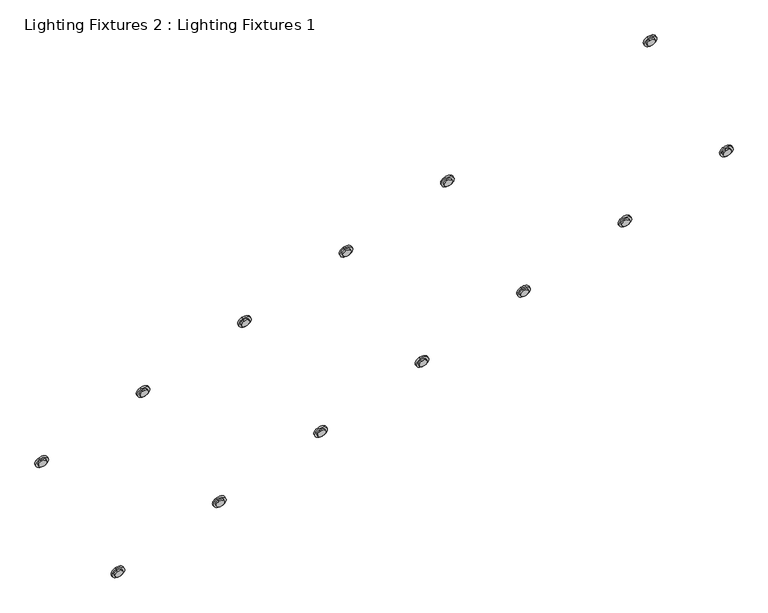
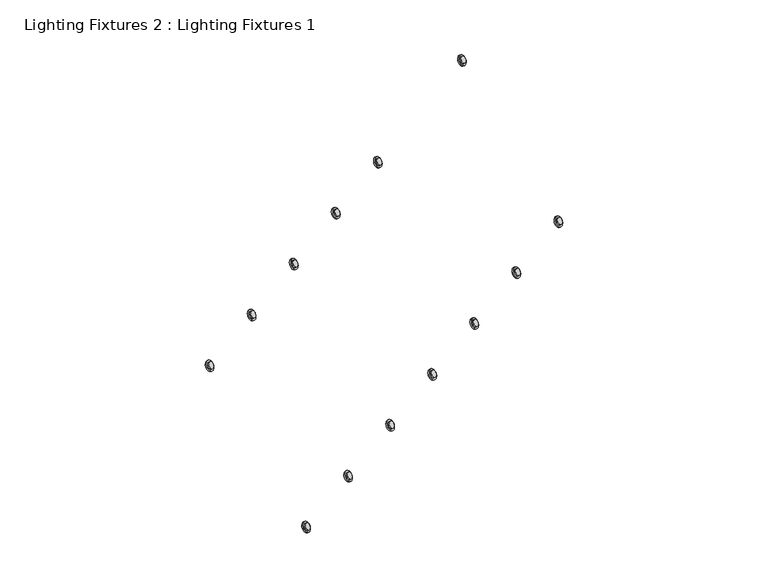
"""IFC4 building model written with IfcOpenShell, lengths in millimetres: light fixture geometry, Lighting Fixtures 2 : Lighting Fixtures 1."""

from ifc_helpers import new_model, si_unit, point, frame, frame_2d, origin, place, context, project, spatial, circle_curve, trimmed, segment, composite_curve, outline, extrude, source, transform, mapped, element, save


def lighting_fixtures_2_lighting_fixtures_1_9e1721ec(model_context):
    return source(origin(), model_context, "Body", "SweptSolid", [
        extrude(outline(composite_curve([segment(trimmed(circle_curve(frame_2d((0.0, -65.0)), 65.0), [point((1e-07, -130.0000001))], [point((0.0, 0.0))], False, "CARTESIAN"), True, "CONTINUOUS"), segment(trimmed(circle_curve(frame_2d((0.0, -65.0)), 65.0), [point((0.0, 0.0))], [point((1e-07, -130.0000001))], False, "CARTESIAN"), True, "CONTINUOUS")], self_intersect=False)), frame((-1226.8155059, 12770.6233894, 7747.2436217), z_axis=(0.47776471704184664, -0.6906048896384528, 0.542960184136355), x_axis=(-0.8223851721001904, -0.568931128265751, 0.0)), (0.0, 0.0, 1.0), 50.0),
        extrude(outline(composite_curve([segment(trimmed(circle_curve(frame_2d((0.0, -100.0000001)), 100.0), [point((1e-07, -200.0))], [point((0.0, 0.0))], False, "CARTESIAN"), True, "CONTINUOUS"), segment(trimmed(circle_curve(frame_2d((0.0, -100.0000001)), 100.0), [point((0.0, 0.0))], [point((1e-07, -200.0))], False, "CARTESIAN"), True, "CONTINUOUS")], self_intersect=False), holes=[composite_curve([segment(trimmed(circle_curve(frame_2d((0.0, -100.0000001)), 65.0), [point((0.0, -165.0))], [point((0.0, -35.0))], True, "CARTESIAN"), True, "CONTINUOUS"), segment(trimmed(circle_curve(frame_2d((0.0, -100.0000001)), 65.0), [point((0.0, -35.0))], [point((0.0, -165.0))], True, "CARTESIAN"), True, "CONTINUOUS")], self_intersect=False)]), frame((-1274.4249653, 12843.7781145, 7882.1837754), z_axis=(0.4777647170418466, -0.6906048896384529, 0.5429601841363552), x_axis=(0.8223851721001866, 0.5689311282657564, 0.0)), (0.0, 0.0, 1.0), 25.0),
        extrude(outline(composite_curve([segment(trimmed(circle_curve(frame_2d((-1e-07, -65.0)), 65.0), [point((0.0, -130.0))], [point((0.0, 0.0))], False, "CARTESIAN"), True, "CONTINUOUS"), segment(trimmed(circle_curve(frame_2d((-1e-07, -65.0)), 65.0), [point((0.0, 0.0))], [point((0.0, -130.0))], False, "CARTESIAN"), True, "CONTINUOUS")], self_intersect=False)), frame((-176.5318754, 11252.4472142, 4892.0649239), z_axis=(0.47776471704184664, -0.6906048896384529, 0.542960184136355), x_axis=(-0.8223851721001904, -0.5689311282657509, 0.0)), (0.0, 0.0, 1.0), 50.0),
        extrude(outline(composite_curve([segment(trimmed(circle_curve(frame_2d((0.0, -100.0000001)), 100.0), [point((0.0, -200.0))], [point((0.0, 0.0))], False, "CARTESIAN"), True, "CONTINUOUS"), segment(trimmed(circle_curve(frame_2d((0.0, -100.0000001)), 100.0), [point((0.0, 0.0))], [point((0.0, -200.0))], False, "CARTESIAN"), True, "CONTINUOUS")], self_intersect=False), holes=[composite_curve([segment(trimmed(circle_curve(frame_2d((0.0, -100.0000001)), 65.0), [point((0.0, -165.0))], [point((0.0, -35.0))], True, "CARTESIAN"), True, "CONTINUOUS"), segment(trimmed(circle_curve(frame_2d((0.0, -100.0000001)), 65.0), [point((0.0, -35.0))], [point((0.0, -165.0))], True, "CARTESIAN"), True, "CONTINUOUS")], self_intersect=False)]), frame((-224.1413347, 11325.6019393, 5027.0050776), z_axis=(0.4777647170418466, -0.6906048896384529, 0.5429601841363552), x_axis=(0.8223851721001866, 0.5689311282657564, 0.0)), (0.0, 0.0, 1.0), 25.0),
        extrude(outline(composite_curve([segment(trimmed(circle_curve(frame_2d((0.0, -65.0)), 65.0), [point((1e-07, -130.0000001))], [point((0.0, 0.0))], False, "CARTESIAN"), True, "CONTINUOUS"), segment(trimmed(circle_curve(frame_2d((0.0, -65.0)), 65.0), [point((0.0, 0.0))], [point((1e-07, -130.0000001))], False, "CARTESIAN"), True, "CONTINUOUS")], self_intersect=False)), frame((-1574.5866679, 10285.2642961, 4892.0649239), z_axis=(0.47776471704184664, -0.6906048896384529, 0.542960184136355), x_axis=(-0.8223851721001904, -0.5689311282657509, 0.0)), (0.0, 0.0, 1.0), 50.0),
        extrude(outline(composite_curve([segment(trimmed(circle_curve(frame_2d((1e-07, -100.0)), 100.0), [point((1e-07, -200.0))], [point((0.0, 0.0))], False, "CARTESIAN"), True, "CONTINUOUS"), segment(trimmed(circle_curve(frame_2d((1e-07, -100.0)), 100.0), [point((0.0, 0.0))], [point((1e-07, -200.0))], False, "CARTESIAN"), True, "CONTINUOUS")], self_intersect=False), holes=[composite_curve([segment(trimmed(circle_curve(frame_2d((1e-07, -100.0)), 65.0), [point((0.0, -165.0))], [point((1e-07, -35.0))], True, "CARTESIAN"), True, "CONTINUOUS"), segment(trimmed(circle_curve(frame_2d((1e-07, -100.0)), 65.0), [point((1e-07, -35.0))], [point((0.0, -165.0))], True, "CARTESIAN"), True, "CONTINUOUS")], self_intersect=False)]), frame((-1622.1961273, 10358.4190212, 5027.0050776), z_axis=(0.4777647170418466, -0.6906048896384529, 0.5429601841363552), x_axis=(0.8223851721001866, 0.5689311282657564, 0.0)), (0.0, 0.0, 1.0), 25.0),
        extrude(outline(composite_curve([segment(trimmed(circle_curve(frame_2d((-1e-07, -65.0)), 65.0), [point((0.0, -130.0))], [point((0.0, 0.0))], False, "CARTESIAN"), True, "CONTINUOUS"), segment(trimmed(circle_curve(frame_2d((-1e-07, -65.0)), 65.0), [point((0.0, 0.0))], [point((0.0, -130.0))], False, "CARTESIAN"), True, "CONTINUOUS")], self_intersect=False)), frame((-4022.9250911, 10836.2575533, 7747.2436217), z_axis=(0.47776471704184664, -0.6906048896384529, 0.542960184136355), x_axis=(-0.8223851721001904, -0.5689311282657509, 0.0)), (0.0, 0.0, 1.0), 50.0),
        extrude(outline(composite_curve([segment(trimmed(circle_curve(frame_2d((0.0, -100.0000001)), 100.0), [point((0.0, -200.0))], [point((0.0, 0.0))], False, "CARTESIAN"), True, "CONTINUOUS"), segment(trimmed(circle_curve(frame_2d((0.0, -100.0000001)), 100.0), [point((0.0, 0.0))], [point((0.0, -200.0))], False, "CARTESIAN"), True, "CONTINUOUS")], self_intersect=False), holes=[composite_curve([segment(trimmed(circle_curve(frame_2d((0.0, -100.0000001)), 65.0), [point((0.0, -165.0))], [point((0.0, -35.0))], True, "CARTESIAN"), True, "CONTINUOUS"), segment(trimmed(circle_curve(frame_2d((0.0, -100.0000001)), 65.0), [point((0.0, -35.0))], [point((0.0, -165.0))], True, "CARTESIAN"), True, "CONTINUOUS")], self_intersect=False)]), frame((-4070.5345504, 10909.4122784, 7882.1837754), z_axis=(0.4777647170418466, -0.6906048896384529, 0.5429601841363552), x_axis=(0.8223851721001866, 0.5689311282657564, 0.0)), (0.0, 0.0, 1.0), 25.0),
        extrude(outline(composite_curve([segment(trimmed(circle_curve(frame_2d((0.0, -65.0)), 65.0), [point((0.0, -130.0))], [point((0.0, 0.0))], False, "CARTESIAN"), True, "CONTINUOUS"), segment(trimmed(circle_curve(frame_2d((0.0, -65.0)), 65.0), [point((0.0, 0.0))], [point((0.0, -130.0))], False, "CARTESIAN"), True, "CONTINUOUS")], self_intersect=False)), frame((-2972.6414605, 9318.0813781, 4892.0649239), z_axis=(0.47776471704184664, -0.6906048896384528, 0.542960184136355), x_axis=(-0.8223851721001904, -0.568931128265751, 0.0)), (0.0, 0.0, 1.0), 50.0),
        extrude(outline(composite_curve([segment(trimmed(circle_curve(frame_2d((0.0, -100.0000001)), 100.0), [point((0.0, -200.0))], [point((0.0, 0.0))], False, "CARTESIAN"), True, "CONTINUOUS"), segment(trimmed(circle_curve(frame_2d((0.0, -100.0000001)), 100.0), [point((0.0, 0.0))], [point((0.0, -200.0))], False, "CARTESIAN"), True, "CONTINUOUS")], self_intersect=False), holes=[composite_curve([segment(trimmed(circle_curve(frame_2d((0.0, -100.0000001)), 65.0), [point((-1e-07, -165.0))], [point((-1e-07, -35.0))], True, "CARTESIAN"), True, "CONTINUOUS"), segment(trimmed(circle_curve(frame_2d((0.0, -100.0000001)), 65.0), [point((-1e-07, -35.0))], [point((-1e-07, -165.0))], True, "CARTESIAN"), True, "CONTINUOUS")], self_intersect=False)]), frame((-3020.2509198, 9391.2361032, 5027.0050776), z_axis=(0.47776471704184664, -0.6906048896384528, 0.5429601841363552), x_axis=(0.8223851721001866, 0.5689311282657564, 0.0)), (0.0, 0.0, 1.0), 25.0),
        extrude(outline(composite_curve([segment(trimmed(circle_curve(frame_2d((0.0, -65.0)), 65.0), [point((1e-07, -130.0000001))], [point((0.0, 0.0))], False, "CARTESIAN"), True, "CONTINUOUS"), segment(trimmed(circle_curve(frame_2d((0.0, -65.0)), 65.0), [point((0.0, 0.0))], [point((1e-07, -130.0000001))], False, "CARTESIAN"), True, "CONTINUOUS")], self_intersect=False)), frame((-5420.9798836, 9869.0746352, 7747.2436217), z_axis=(0.47776471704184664, -0.6906048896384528, 0.542960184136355), x_axis=(-0.8223851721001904, -0.568931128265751, 0.0)), (0.0, 0.0, 1.0), 50.0),
        extrude(outline(composite_curve([segment(trimmed(circle_curve(frame_2d((1e-07, -100.0)), 100.0), [point((1e-07, -200.0))], [point((0.0, 0.0))], False, "CARTESIAN"), True, "CONTINUOUS"), segment(trimmed(circle_curve(frame_2d((1e-07, -100.0)), 100.0), [point((0.0, 0.0))], [point((1e-07, -200.0))], False, "CARTESIAN"), True, "CONTINUOUS")], self_intersect=False), holes=[composite_curve([segment(trimmed(circle_curve(frame_2d((1e-07, -100.0)), 65.0), [point((0.0, -165.0))], [point((1e-07, -35.0))], True, "CARTESIAN"), True, "CONTINUOUS"), segment(trimmed(circle_curve(frame_2d((1e-07, -100.0)), 65.0), [point((1e-07, -35.0))], [point((0.0, -165.0))], True, "CARTESIAN"), True, "CONTINUOUS")], self_intersect=False)]), frame((-5468.589343, 9942.2293603, 7882.1837754), z_axis=(0.47776471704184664, -0.6906048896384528, 0.5429601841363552), x_axis=(0.8223851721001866, 0.5689311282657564, 0.0)), (0.0, 0.0, 1.0), 25.0),
        extrude(outline(composite_curve([segment(trimmed(circle_curve(frame_2d((0.0, -65.0)), 65.0), [point((0.0, -130.0))], [point((0.0, 0.0))], False, "CARTESIAN"), True, "CONTINUOUS"), segment(trimmed(circle_curve(frame_2d((0.0, -65.0)), 65.0), [point((0.0, 0.0))], [point((0.0, -130.0))], False, "CARTESIAN"), True, "CONTINUOUS")], self_intersect=False)), frame((-4370.6962531, 8350.89846, 4892.0649239), z_axis=(0.47776471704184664, -0.6906048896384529, 0.542960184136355), x_axis=(-0.8223851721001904, -0.5689311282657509, 0.0)), (0.0, 0.0, 1.0), 50.0),
        extrude(outline(composite_curve([segment(trimmed(circle_curve(frame_2d((0.0, -100.0)), 100.0), [point((0.0, -200.0))], [point((0.0, 0.0))], False, "CARTESIAN"), True, "CONTINUOUS"), segment(trimmed(circle_curve(frame_2d((0.0, -100.0)), 100.0), [point((0.0, 0.0))], [point((0.0, -200.0))], False, "CARTESIAN"), True, "CONTINUOUS")], self_intersect=False), holes=[composite_curve([segment(trimmed(circle_curve(frame_2d((0.0, -100.0)), 65.0), [point((0.0, -165.0))], [point((1e-07, -35.0))], True, "CARTESIAN"), True, "CONTINUOUS"), segment(trimmed(circle_curve(frame_2d((0.0, -100.0)), 65.0), [point((1e-07, -35.0))], [point((0.0, -165.0))], True, "CARTESIAN"), True, "CONTINUOUS")], self_intersect=False)]), frame((-4418.3057124, 8424.0531851, 5027.0050776), z_axis=(0.47776471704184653, -0.6906048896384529, 0.542960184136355), x_axis=(0.8223851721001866, 0.5689311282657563, 0.0)), (0.0, 0.0, 1.0), 25.0),
        extrude(outline(composite_curve([segment(trimmed(circle_curve(frame_2d((0.0, -65.0)), 65.0), [point((0.0, -130.0))], [point((0.0, 0.0))], False, "CARTESIAN"), True, "CONTINUOUS"), segment(trimmed(circle_curve(frame_2d((0.0, -65.0)), 65.0), [point((0.0, 0.0))], [point((0.0, -130.0))], False, "CARTESIAN"), True, "CONTINUOUS")], self_intersect=False)), frame((-6819.0346762, 8901.8917172, 7747.2436217), z_axis=(0.47776471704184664, -0.6906048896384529, 0.542960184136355), x_axis=(-0.8223851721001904, -0.5689311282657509, 0.0)), (0.0, 0.0, 1.0), 50.0),
        extrude(outline(composite_curve([segment(trimmed(circle_curve(frame_2d((0.0, -100.0000001)), 100.0), [point((0.0, -200.0))], [point((0.0, 0.0))], False, "CARTESIAN"), True, "CONTINUOUS"), segment(trimmed(circle_curve(frame_2d((0.0, -100.0000001)), 100.0), [point((0.0, 0.0))], [point((0.0, -200.0))], False, "CARTESIAN"), True, "CONTINUOUS")], self_intersect=False), holes=[composite_curve([segment(trimmed(circle_curve(frame_2d((0.0, -100.0000001)), 65.0), [point((-1e-07, -165.0))], [point((-1e-07, -35.0))], True, "CARTESIAN"), True, "CONTINUOUS"), segment(trimmed(circle_curve(frame_2d((0.0, -100.0000001)), 65.0), [point((-1e-07, -35.0))], [point((-1e-07, -165.0))], True, "CARTESIAN"), True, "CONTINUOUS")], self_intersect=False)]), frame((-6866.6441355, 8975.0464423, 7882.1837754), z_axis=(0.47776471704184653, -0.6906048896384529, 0.542960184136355), x_axis=(0.8223851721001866, 0.5689311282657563, 0.0)), (0.0, 0.0, 1.0), 25.0),
        extrude(outline(composite_curve([segment(trimmed(circle_curve(frame_2d((-1e-07, -65.0)), 65.0), [point((0.0, -130.0))], [point((0.0, 0.0))], False, "CARTESIAN"), True, "CONTINUOUS"), segment(trimmed(circle_curve(frame_2d((-1e-07, -65.0)), 65.0), [point((0.0, 0.0))], [point((0.0, -130.0))], False, "CARTESIAN"), True, "CONTINUOUS")], self_intersect=False)), frame((-5768.7510457, 7383.715542, 4892.0649239), z_axis=(0.47776471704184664, -0.6906048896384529, 0.542960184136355), x_axis=(-0.8223851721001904, -0.5689311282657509, 0.0)), (0.0, 0.0, 1.0), 50.0),
        extrude(outline(composite_curve([segment(trimmed(circle_curve(frame_2d((0.0, -100.0000001)), 100.0), [point((1e-07, -200.0))], [point((0.0, 0.0))], False, "CARTESIAN"), True, "CONTINUOUS"), segment(trimmed(circle_curve(frame_2d((0.0, -100.0000001)), 100.0), [point((0.0, 0.0))], [point((1e-07, -200.0))], False, "CARTESIAN"), True, "CONTINUOUS")], self_intersect=False), holes=[composite_curve([segment(trimmed(circle_curve(frame_2d((0.0, -100.0000001)), 65.0), [point((0.0, -165.0))], [point((0.0, -35.0))], True, "CARTESIAN"), True, "CONTINUOUS"), segment(trimmed(circle_curve(frame_2d((0.0, -100.0000001)), 65.0), [point((0.0, -35.0))], [point((0.0, -165.0))], True, "CARTESIAN"), True, "CONTINUOUS")], self_intersect=False)]), frame((-5816.360505, 7456.8702671, 5027.0050776), z_axis=(0.47776471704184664, -0.6906048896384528, 0.5429601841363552), x_axis=(0.8223851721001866, 0.5689311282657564, 0.0)), (0.0, 0.0, 1.0), 25.0),
        extrude(outline(composite_curve([segment(trimmed(circle_curve(frame_2d((-1e-07, -65.0)), 65.0), [point((0.0, -130.0))], [point((0.0, 0.0))], False, "CARTESIAN"), True, "CONTINUOUS"), segment(trimmed(circle_curve(frame_2d((-1e-07, -65.0)), 65.0), [point((0.0, 0.0))], [point((0.0, -130.0))], False, "CARTESIAN"), True, "CONTINUOUS")], self_intersect=False)), frame((-8217.0894688, 7934.7087991, 7747.2436217), z_axis=(0.47776471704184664, -0.6906048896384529, 0.542960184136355), x_axis=(-0.8223851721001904, -0.5689311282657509, 0.0)), (0.0, 0.0, 1.0), 50.0),
        extrude(outline(composite_curve([segment(trimmed(circle_curve(frame_2d((0.0, -100.0)), 100.0), [point((0.0, -200.0))], [point((0.0, 0.0))], False, "CARTESIAN"), True, "CONTINUOUS"), segment(trimmed(circle_curve(frame_2d((0.0, -100.0)), 100.0), [point((0.0, 0.0))], [point((0.0, -200.0))], False, "CARTESIAN"), True, "CONTINUOUS")], self_intersect=False), holes=[composite_curve([segment(trimmed(circle_curve(frame_2d((0.0, -100.0)), 65.0), [point((0.0, -165.0))], [point((1e-07, -35.0))], True, "CARTESIAN"), True, "CONTINUOUS"), segment(trimmed(circle_curve(frame_2d((0.0, -100.0)), 65.0), [point((1e-07, -35.0))], [point((0.0, -165.0))], True, "CARTESIAN"), True, "CONTINUOUS")], self_intersect=False)]), frame((-8264.6989281, 8007.8635242, 7882.1837754), z_axis=(0.47776471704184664, -0.6906048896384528, 0.5429601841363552), x_axis=(0.8223851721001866, 0.5689311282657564, 0.0)), (0.0, 0.0, 1.0), 25.0),
        extrude(outline(composite_curve([segment(trimmed(circle_curve(frame_2d((0.0, -65.0)), 65.0), [point((1e-07, -130.0000001))], [point((0.0, 0.0))], False, "CARTESIAN"), True, "CONTINUOUS"), segment(trimmed(circle_curve(frame_2d((0.0, -65.0)), 65.0), [point((0.0, 0.0))], [point((1e-07, -130.0000001))], False, "CARTESIAN"), True, "CONTINUOUS")], self_intersect=False)), frame((-7166.8058382, 6416.5326239, 4892.0649239), z_axis=(0.4777647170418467, -0.6906048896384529, 0.542960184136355), x_axis=(-0.8223851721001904, -0.5689311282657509, 0.0)), (0.0, 0.0, 1.0), 50.0),
        extrude(outline(composite_curve([segment(trimmed(circle_curve(frame_2d((0.0, -100.0)), 100.0), [point((0.0, -200.0))], [point((0.0, 0.0))], False, "CARTESIAN"), True, "CONTINUOUS"), segment(trimmed(circle_curve(frame_2d((0.0, -100.0)), 100.0), [point((0.0, 0.0))], [point((0.0, -200.0))], False, "CARTESIAN"), True, "CONTINUOUS")], self_intersect=False), holes=[composite_curve([segment(trimmed(circle_curve(frame_2d((0.0, -100.0)), 65.0), [point((0.0, -165.0))], [point((-1e-07, -35.0))], True, "CARTESIAN"), True, "CONTINUOUS"), segment(trimmed(circle_curve(frame_2d((0.0, -100.0)), 65.0), [point((-1e-07, -35.0))], [point((0.0, -165.0))], True, "CARTESIAN"), True, "CONTINUOUS")], self_intersect=False)]), frame((-7214.4152975, 6489.687349, 5027.0050776), z_axis=(0.47776471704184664, -0.6906048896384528, 0.5429601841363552), x_axis=(0.8223851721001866, 0.5689311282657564, 0.0)), (0.0, 0.0, 1.0), 25.0),
        extrude(outline(composite_curve([segment(trimmed(circle_curve(frame_2d((-1e-07, -65.0)), 65.0), [point((0.0, -130.0))], [point((0.0, 0.0))], False, "CARTESIAN"), True, "CONTINUOUS"), segment(trimmed(circle_curve(frame_2d((-1e-07, -65.0)), 65.0), [point((0.0, 0.0))], [point((0.0, -130.0))], False, "CARTESIAN"), True, "CONTINUOUS")], self_intersect=False)), frame((-9615.1442614, 6967.5258811, 7747.2436217), z_axis=(0.4777647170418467, -0.6906048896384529, 0.542960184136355), x_axis=(-0.8223851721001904, -0.5689311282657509, 0.0)), (0.0, 0.0, 1.0), 50.0),
        extrude(outline(composite_curve([segment(trimmed(circle_curve(frame_2d((0.0, -100.0000001)), 100.0), [point((1e-07, -200.0))], [point((0.0, 0.0))], False, "CARTESIAN"), True, "CONTINUOUS"), segment(trimmed(circle_curve(frame_2d((0.0, -100.0000001)), 100.0), [point((0.0, 0.0))], [point((1e-07, -200.0))], False, "CARTESIAN"), True, "CONTINUOUS")], self_intersect=False), holes=[composite_curve([segment(trimmed(circle_curve(frame_2d((0.0, -100.0000001)), 65.0), [point((0.0, -165.0))], [point((0.0, -35.0))], True, "CARTESIAN"), True, "CONTINUOUS"), segment(trimmed(circle_curve(frame_2d((0.0, -100.0000001)), 65.0), [point((0.0, -35.0))], [point((0.0, -165.0))], True, "CARTESIAN"), True, "CONTINUOUS")], self_intersect=False)]), frame((-9662.7537207, 7040.6806062, 7882.1837754), z_axis=(0.47776471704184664, -0.6906048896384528, 0.5429601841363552), x_axis=(0.8223851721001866, 0.5689311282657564, 0.0)), (0.0, 0.0, 1.0), 25.0),
        extrude(outline(composite_curve([segment(trimmed(circle_curve(frame_2d((0.0, -65.0)), 65.0), [point((0.0, -130.0))], [point((0.0, 0.0))], False, "CARTESIAN"), True, "CONTINUOUS"), segment(trimmed(circle_curve(frame_2d((0.0, -65.0)), 65.0), [point((0.0, 0.0))], [point((0.0, -130.0))], False, "CARTESIAN"), True, "CONTINUOUS")], self_intersect=False)), frame((-8564.8606308, 5449.3497059, 4892.0649239), z_axis=(0.47776471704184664, -0.6906048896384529, 0.542960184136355), x_axis=(-0.8223851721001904, -0.5689311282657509, 0.0)), (0.0, 0.0, 1.0), 50.0),
        extrude(outline(composite_curve([segment(trimmed(circle_curve(frame_2d((0.0, -100.0000001)), 100.0), [point((0.0, -200.0))], [point((0.0, 0.0))], False, "CARTESIAN"), True, "CONTINUOUS"), segment(trimmed(circle_curve(frame_2d((0.0, -100.0000001)), 100.0), [point((0.0, 0.0))], [point((0.0, -200.0))], False, "CARTESIAN"), True, "CONTINUOUS")], self_intersect=False), holes=[composite_curve([segment(trimmed(circle_curve(frame_2d((0.0, -100.0000001)), 65.0), [point((0.0, -165.0))], [point((-1e-07, -35.0))], True, "CARTESIAN"), True, "CONTINUOUS"), segment(trimmed(circle_curve(frame_2d((0.0, -100.0000001)), 65.0), [point((-1e-07, -35.0))], [point((0.0, -165.0))], True, "CARTESIAN"), True, "CONTINUOUS")], self_intersect=False)]), frame((-8612.4700901, 5522.504431, 5027.0050776), z_axis=(0.47776471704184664, -0.6906048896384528, 0.5429601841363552), x_axis=(0.8223851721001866, 0.5689311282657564, 0.0)), (0.0, 0.0, 1.0), 25.0),
    ])


if __name__ == "__main__":
    model = new_model("IFC4")
    model_context = context("Model", 3, world=origin())
    ifc_project = project(units=[si_unit("LENGTHUNIT", "METRE", prefix="MILLI")], contexts=[model_context])
    site = spatial("IfcSite", under=ifc_project)
    building = spatial("IfcBuilding", under=site)
    placement = place(None, origin())
    lighting_fixtures_2_lighting_fixtures_1_shape = lighting_fixtures_2_lighting_fixtures_1_9e1721ec(model_context)
    element("IfcLightFixture", 1, ObjectType="Lighting Fixtures 2 : Lighting Fixtures 1", at=placement, inside=building, context=model_context, shape_type="MappedRepresentation", body=[
        mapped(lighting_fixtures_2_lighting_fixtures_1_shape, transform((0.0, 0.0, 0.0), x_axis=(1.0, 0.0, 0.0), y_axis=(0.0, 1.0, 0.0), z_axis=(0.0, 0.0, 1.0))),
    ])
    save(model, "model.ifc")
